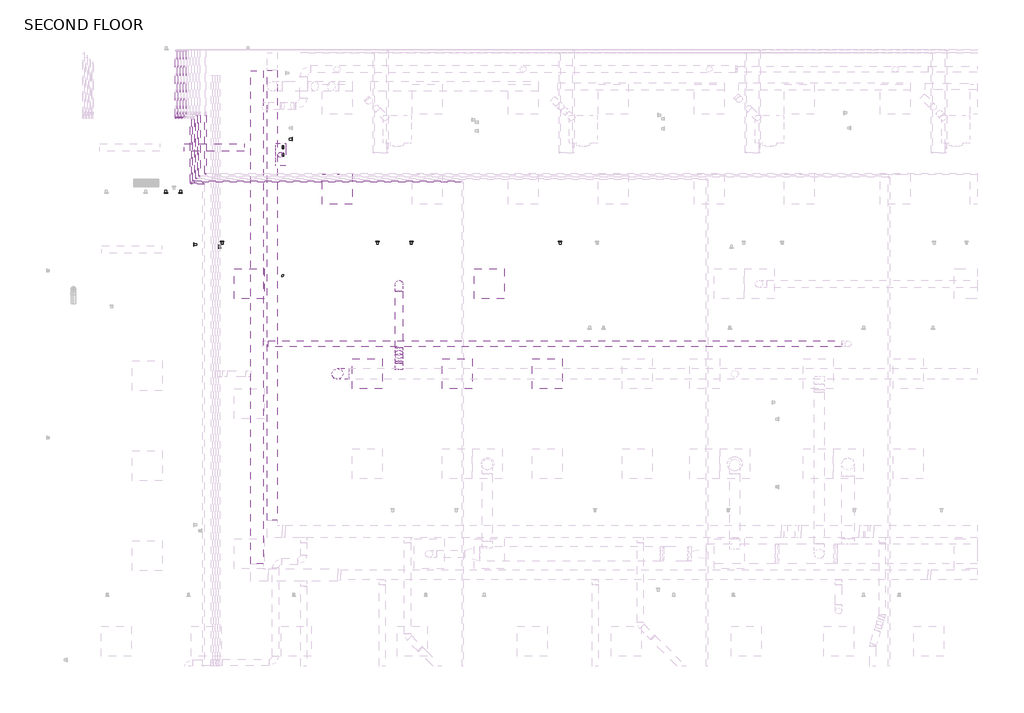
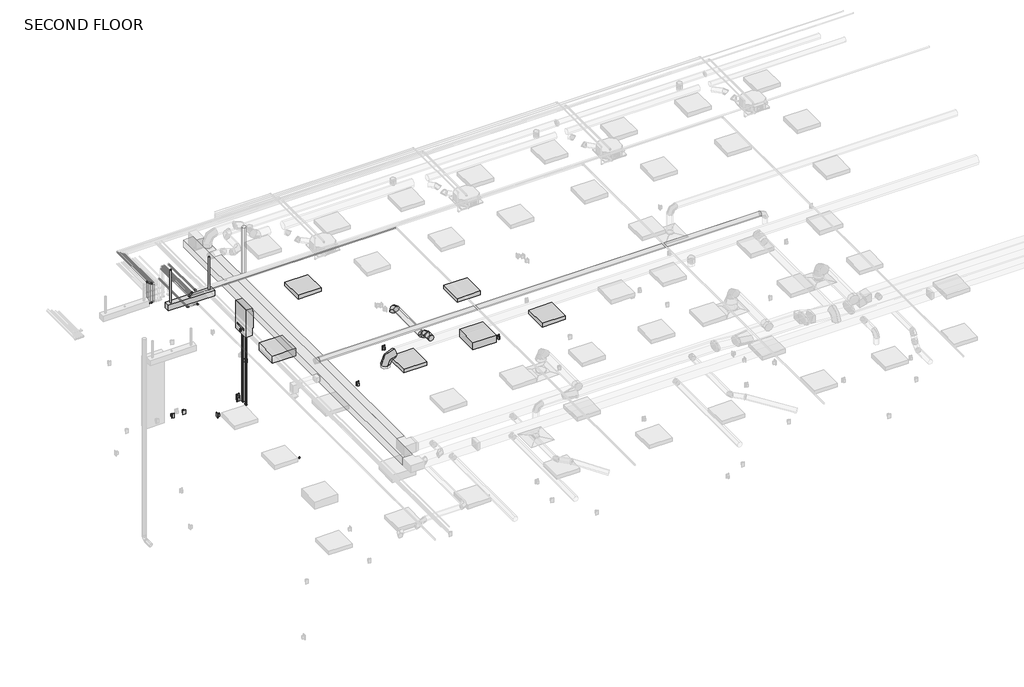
# One storey, part 7 of 12: 21 pipe segments, 15 pipe fittings, 8 duct segments, 7 light fixtures, 5 duct fittings, 5 proxies, 4 switching devices, 1 electric appliance.
"""IFC4 building model written with IfcOpenShell, lengths in millimetres."""

from ifc_helpers import new_model, si_unit, point, frame, frame_2d, origin, place, context, project, spatial, polyline, circle_curve, trimmed, segment, composite_curve, outline, extrude, transform, mapped, element, save
from components import duplex_receptacle_countertop_10251bba, water_heater_tankless_0_6_gallon_c20ab9af, round_elbow_1_d_df495868, round_elbow_1_d_b37ad80b, round_elbow_1_d_9a27e954, round_takeoff_standard_533576aa, telephone_outlet_data_plain_18c24199, suspended_fluorescent_strip_non_hosted_strip_light_1x4_120v_f70b047a, troffer_corner_insert_2x2_3_lamp_emergency_29e3a813, troffer_corner_insert_2x2_3lamp_e67c7f8f, elbow_generic_standard_c06ac706, tee_generic_standard_c9cae54f, tee_generic_standard_d345b28c

model = new_model("IFC4")

# Units and contexts
model_context = context("Model", 3, world=origin())
ifc_project = project(units=[si_unit("LENGTHUNIT", "METRE", prefix="MILLI")], contexts=[model_context])

# Site, building, storey
site = spatial("IfcSite", under=ifc_project)
building = spatial("IfcBuilding", under=site)
storey = spatial("IfcBuildingStorey", under=building, Name="SECOND FLOOR", Elevation=34544.0)

# Proxies
placement = place(None, origin())
duplex_receptacle_countertop_shape = duplex_receptacle_countertop_10251bba(model_context)
element("IfcBuildingElementProxy", 1, Name="Duplex Receptacle : Standard", ObjectType="Duplex Receptacle : Standard", at=placement, inside=storey, context=model_context, shape_type="MappedRepresentation", body=[
    mapped(duplex_receptacle_countertop_shape, transform((-5631.4954607, 5845.9813735, 35001.2), x_axis=(0.0, 1.0, 0.0), y_axis=(0.0, 0.0, 1.0), z_axis=(1.0, 0.0, 0.0))),
])
element("IfcBuildingElementProxy", 2, Name="Duplex Receptacle : Standard", ObjectType="Duplex Receptacle : Standard", at=placement, inside=storey, context=model_context, shape_type="MappedRepresentation", body=[
    mapped(duplex_receptacle_countertop_shape, transform((-3895.4451899, 3763.3695005, 35001.2), x_axis=(-1.0, 0.0, 0.0), y_axis=(0.0, 0.0, 1.0), z_axis=(0.0, 1.0, 0.0))),
])
element("IfcBuildingElementProxy", 3, Name="Duplex Receptacle : Standard", ObjectType="Duplex Receptacle : Standard", at=placement, inside=storey, context=model_context, shape_type="MappedRepresentation", body=[
    mapped(duplex_receptacle_countertop_shape, transform((-183.4985856, 3763.3695005, 35001.2), x_axis=(-1.0, 0.0, 0.0), y_axis=(0.0, 0.0, 1.0), z_axis=(0.0, 1.0, 0.0))),
])
element("IfcBuildingElementProxy", 4, Name="Duplex Receptacle : Standard", ObjectType="Duplex Receptacle : Standard", at=placement, inside=storey, context=model_context, shape_type="MappedRepresentation", body=[
    mapped(duplex_receptacle_countertop_shape, transform((-7897.5005989, 4757.1445005, 35001.2), x_axis=(1.0, 0.0, 0.0), y_axis=(0.0, 0.0, 1.0), z_axis=(0.0, -1.0, 0.0))),
])
water_heater_tankless_0_6_gallon_shape = water_heater_tankless_0_6_gallon_c20ab9af(model_context)
element("IfcBuildingElementProxy", 5, Name="Water Heater - Tankless : 0.6 Gallon", ObjectType="Water Heater - Tankless : 0.6 Gallon", at=placement, inside=storey, context=model_context, shape_type="MappedRepresentation", body=[
    mapped(water_heater_tankless_0_6_gallon_shape, transform((-5755.3204607, 5529.8718518, 36068.0), x_axis=(0.0, -1.0, 0.0), y_axis=(0.0, 0.0, 1.0), z_axis=(-1.0, 0.0, 0.0))),
])

# Duct fittings
round_elbow_1_d_shape = round_elbow_1_d_df495868(model_context)
element("IfcDuctFitting", 6, ObjectType="Round Elbow : 1 D", at=placement, inside=storey, context=model_context, shape_type="MappedRepresentation", body=[
    mapped(round_elbow_1_d_shape, transform((-4708.3642107, 1077.3195005, 37693.6), x_axis=(0.0, 0.0, 1.0), y_axis=(1.0, 0.0, 0.0), z_axis=(0.0, 1.0, 0.0))),
])
round_elbow_1_d_2_shape = round_elbow_1_d_b37ad80b(model_context)
element("IfcDuctFitting", 7, ObjectType="Round Elbow : 1 D", at=placement, inside=storey, context=model_context, shape_type="MappedRepresentation", body=[
    mapped(round_elbow_1_d_2_shape, transform((-3456.6204607, 2906.1195005, 37541.2), x_axis=(0.0, 1.0, 0.0), y_axis=(0.0, 0.0, -1.0), z_axis=(-1.0, 0.0, 0.0))),
])
round_elbow_1_d_3_shape = round_elbow_1_d_9a27e954(model_context)
element("IfcDuctFitting", 8, ObjectType="Round Elbow : 1 D", at=placement, inside=storey, context=model_context, shape_type="MappedRepresentation", body=[
    mapped(round_elbow_1_d_3_shape, transform((-3456.6204607, 1395.5286193, 37693.6), x_axis=(0.0, 1.0, 0.0), y_axis=(0.0, 0.0, -1.0), z_axis=(-1.0, 0.0, 0.0))),
])
element("IfcDuctFitting", 9, ObjectType="Round Elbow : 1 D", at=placement, inside=storey, context=model_context, shape_type="MappedRepresentation", body=[
    mapped(round_elbow_1_d_3_shape, transform((-3456.6204607, 1547.9286193, 37541.2), x_axis=(0.0, 0.7071067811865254, -0.7071067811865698), y_axis=(0.0, 0.7071067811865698, 0.7071067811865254), z_axis=(1.0, 0.0, 0.0))),
])
round_takeoff_standard_shape = round_takeoff_standard_533576aa(model_context)
element("IfcDuctFitting", 10, ObjectType="Round Takeoff : Standard", at=placement, inside=storey, context=model_context, shape_type="MappedRepresentation", body=[
    mapped(round_takeoff_standard_shape, transform((-3456.6204607, 1191.6195005, 37693.6), x_axis=(0.0, 1.0, 0.0), y_axis=(1.0, 0.0, 0.0), z_axis=(0.0, 0.0, -1.0))),
])

# Duct segments
element("IfcDuctSegment", 11, ObjectType="Mitered Elbows / Taps", at=placement, inside=storey, context=model_context, shape_type="SweptSolid", body=[
    extrude(outline(polyline([(-6474.3126806, 7240.8083087), (-6220.3126806, 7240.8083087), (-6220.3126806, -2781.6706668), (-6474.3126806, -2781.6706668), (-6474.3126806, 7240.8083087)])), frame((0.0, 0.0, 37592.0), z_axis=(0.0, 0.0, 1.0), x_axis=(1.0, 0.0, 0.0)), (0.0, 0.0, 1.0), 203.2),
])
element("IfcDuctSegment", 12, ObjectType="Mitered Elbows / Taps", at=placement, inside=storey, context=model_context, shape_type="SweptSolid", body=[
    extrude(outline(polyline([(-5928.2204015, -1894.4804995), (-6131.4204015, -1894.4804995), (-6131.4204015, 7249.5195005), (-5928.2204015, 7249.5195005), (-5928.2204015, -1894.4804995)])), frame((0.0, 0.0, 37414.2), z_axis=(0.0, 0.0, 1.0), x_axis=(1.0, 0.0, 0.0)), (0.0, 0.0, 1.0), 254.0),
])
element("IfcDuctSegment", 13, ObjectType="Taps / Short Radius", at=placement, inside=storey, context=model_context, shape_type="SweptSolid", body=[
    extrude(outline(composite_curve([segment(trimmed(circle_curve(frame_2d((1686.9195005, 37693.6)), 63.5), [point((1623.4195005, 37693.6))], [point((1686.9195005, 37757.1))], False, "CARTESIAN"), True, "CONTINUOUS"), segment(trimmed(circle_curve(frame_2d((1686.9195005, 37693.6)), 63.5), [point((1686.9195005, 37757.1))], [point((1750.4195005, 37693.6))], False, "CARTESIAN"), True, "CONTINUOUS"), segment(trimmed(circle_curve(frame_2d((1686.9195005, 37693.6)), 63.5), [point((1750.4195005, 37693.6))], [point((1686.9195005, 37630.1))], False, "CARTESIAN"), True, "CONTINUOUS"), segment(trimmed(circle_curve(frame_2d((1686.9195005, 37693.6)), 63.5), [point((1686.9195005, 37630.1))], [point((1623.4195005, 37693.6))], False, "CARTESIAN"), True, "CONTINUOUS")], self_intersect=False)), frame((-6118.7126806, 0.0, 0.0), z_axis=(1.0, 0.0, 0.0), x_axis=(0.0, 1.0, 0.0)), (0.0, 0.0, 1.0), 11660.8359699),
])
element("IfcDuctSegment", 14, ObjectType="Taps / Short Radius", at=placement, inside=storey, context=model_context, shape_type="SweptSolid", body=[
    extrude(outline(composite_curve([segment(trimmed(circle_curve(frame_2d((-4708.3642107, 1077.3195005)), 114.3), [point((-4708.3642107, 963.0195005))], [point((-4822.6642107, 1077.3195005))], False, "CARTESIAN"), True, "CONTINUOUS"), segment(trimmed(circle_curve(frame_2d((-4708.3642107, 1077.3195005)), 114.3), [point((-4822.6642107, 1077.3195005))], [point((-4708.3642107, 1191.6195005))], False, "CARTESIAN"), True, "CONTINUOUS"), segment(trimmed(circle_curve(frame_2d((-4708.3642107, 1077.3195005)), 114.3), [point((-4708.3642107, 1191.6195005))], [point((-4594.0642107, 1077.3195005))], False, "CARTESIAN"), True, "CONTINUOUS"), segment(trimmed(circle_curve(frame_2d((-4708.3642107, 1077.3195005)), 114.3), [point((-4594.0642107, 1077.3195005))], [point((-4708.3642107, 963.0195005))], False, "CARTESIAN"), True, "CONTINUOUS")], self_intersect=False)), frame((0.0, 0.0, 37388.8), z_axis=(0.0, 0.0, 1.0), x_axis=(1.0, 0.0, 0.0)), (0.0, 0.0, 1.0), 76.2),
])
element("IfcDuctSegment", 15, ObjectType="Taps / Short Radius", at=placement, inside=storey, context=model_context, shape_type="SweptSolid", body=[
    extrude(outline(composite_curve([segment(trimmed(circle_curve(frame_2d((37541.2, -3456.6204607)), 76.2), [point((37541.2, -3380.4204607))], [point((37617.4, -3456.6204607))], False, "CARTESIAN"), True, "CONTINUOUS"), segment(trimmed(circle_curve(frame_2d((37541.2, -3456.6204607)), 76.2), [point((37617.4, -3456.6204607))], [point((37541.2, -3532.8204607))], False, "CARTESIAN"), True, "CONTINUOUS"), segment(trimmed(circle_curve(frame_2d((37541.2, -3456.6204607)), 76.2), [point((37541.2, -3532.8204607))], [point((37465.0, -3456.6204607))], False, "CARTESIAN"), True, "CONTINUOUS"), segment(trimmed(circle_curve(frame_2d((37541.2, -3456.6204607)), 76.2), [point((37465.0, -3456.6204607))], [point((37541.2, -3380.4204607))], False, "CARTESIAN"), True, "CONTINUOUS")], self_intersect=False)), frame((0.0, 1611.0547662, 0.0), z_axis=(0.0, 1.0, 0.0), x_axis=(0.0, 0.0, 1.0)), (0.0, 0.0, 1.0), 1142.6647343),
])
element("IfcDuctSegment", 16, ObjectType="Taps / Short Radius", at=placement, inside=storey, context=model_context, shape_type="SweptSolid", body=[
    extrude(outline(composite_curve([segment(trimmed(circle_curve(frame_2d((37693.6, -3456.6204607)), 76.2), [point((37693.6, -3380.4204607))], [point((37769.8, -3456.6204607))], False, "CARTESIAN"), True, "CONTINUOUS"), segment(trimmed(circle_curve(frame_2d((37693.6, -3456.6204607)), 76.2), [point((37769.8, -3456.6204607))], [point((37693.6, -3532.8204607))], False, "CARTESIAN"), True, "CONTINUOUS"), segment(trimmed(circle_curve(frame_2d((37693.6, -3456.6204607)), 76.2), [point((37693.6, -3532.8204607))], [point((37617.4, -3456.6204607))], False, "CARTESIAN"), True, "CONTINUOUS"), segment(trimmed(circle_curve(frame_2d((37693.6, -3456.6204607)), 76.2), [point((37617.4, -3456.6204607))], [point((37693.6, -3380.4204607))], False, "CARTESIAN"), True, "CONTINUOUS")], self_intersect=False)), frame((0.0, 1293.2195005, 0.0), z_axis=(0.0, 1.0, 0.0), x_axis=(0.0, 0.0, 1.0)), (0.0, 0.0, 1.0), 39.1829719),
])
element("IfcDuctSegment", 17, ObjectType="Taps / Short Radius", at=placement, inside=storey, context=model_context, shape_type="SweptSolid", body=[
    extrude(outline(composite_curve([segment(trimmed(circle_curve(frame_2d((0.0, -76.2000001)), 76.2), [point((76.2, -76.2000001))], [point((0.0, -152.4000001))], False, "CARTESIAN"), True, "CONTINUOUS"), segment(trimmed(circle_curve(frame_2d((0.0, -76.2000001)), 76.2), [point((0.0, -152.4000001))], [point((-76.2, -76.2000001))], False, "CARTESIAN"), True, "CONTINUOUS"), segment(trimmed(circle_curve(frame_2d((0.0, -76.2000001)), 76.2), [point((-76.2, -76.2000001))], [point((0.0, 0.0))], False, "CARTESIAN"), True, "CONTINUOUS"), segment(trimmed(circle_curve(frame_2d((0.0, -76.2000001)), 76.2), [point((0.0, 0.0))], [point((76.2, -76.2000001))], False, "CARTESIAN"), True, "CONTINUOUS")], self_intersect=False)), frame((-3456.6204607, 1557.1732295, 37639.7184633), z_axis=(0.0, -0.7071067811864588, 0.7071067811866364), x_axis=(1.0, 0.0, 0.0)), (0.0, 0.0, 1.0), 89.2738531),
])
element("IfcDuctSegment", 18, ObjectType="Taps / Short Radius", at=placement, inside=storey, context=model_context, shape_type="SweptSolid", body=[
    extrude(outline(composite_curve([segment(trimmed(circle_curve(frame_2d((-5869.6204607, 5529.8718518)), 50.8), [point((-5818.8204607, 5529.8718518))], [point((-5869.6204607, 5479.0718518))], False, "CARTESIAN"), True, "CONTINUOUS"), segment(trimmed(circle_curve(frame_2d((-5869.6204607, 5529.8718518)), 50.8), [point((-5869.6204607, 5479.0718518))], [point((-5920.4204607, 5529.8718518))], False, "CARTESIAN"), True, "CONTINUOUS"), segment(trimmed(circle_curve(frame_2d((-5869.6204607, 5529.8718518)), 50.8), [point((-5920.4204607, 5529.8718518))], [point((-5869.6204607, 5580.6718518))], False, "CARTESIAN"), True, "CONTINUOUS"), segment(trimmed(circle_curve(frame_2d((-5869.6204607, 5529.8718518)), 50.8), [point((-5869.6204607, 5580.6718518))], [point((-5818.8204607, 5529.8718518))], False, "CARTESIAN"), True, "CONTINUOUS")], self_intersect=False)), frame((0.0, 0.0, 36830.0), z_axis=(0.0, 0.0, 1.0), x_axis=(1.0, 0.0, 0.0)), (0.0, 0.0, 1.0), 2159.0),
])

# Electric appliance
telephone_outlet_data_plain_shape = telephone_outlet_data_plain_18c24199(model_context)
element("IfcElectricAppliance", 19, ObjectType="Telephone Outlet - Data : Plain", at=placement, inside=storey, context=model_context, shape_type="MappedRepresentation", body=[
    mapped(telephone_outlet_data_plain_shape, transform((-7315.5685477, 4757.1445005, 34143.95), x_axis=(1.0, 0.0, 0.0), y_axis=(0.0, 0.0, 1.0), z_axis=(0.0, -1.0, 0.0))),
])

# Light fixtures
suspended_fluorescent_strip_non_hosted_strip_light_1x4_120v_shape = suspended_fluorescent_strip_non_hosted_strip_light_1x4_120v_f70b047a(model_context)
element("IfcLightFixture", 20, ObjectType="Suspended Fluorescent Strip - Non-Hosted : Strip Light 1x4 - 120V Normal", at=placement, inside=storey, context=model_context, shape_type="MappedRepresentation", body=[
    mapped(suspended_fluorescent_strip_non_hosted_strip_light_1x4_120v_shape, transform((-7211.4888758, 5679.9210752, 37287.2), x_axis=(1.0, 0.0, 0.0), y_axis=(0.0, 1.0, 0.0), z_axis=(0.0, 0.0, 1.0))),
])
troffer_corner_insert_2x2_3_lamp_emergency_shape = troffer_corner_insert_2x2_3_lamp_emergency_29e3a813(model_context)
element("IfcLightFixture", 21, ObjectType="Troffer Corner Insert : 2x2 3 Lamp Emergency", at=placement, inside=storey, context=model_context, shape_type="MappedRepresentation", body=[
    mapped(troffer_corner_insert_2x2_3_lamp_emergency_shape, transform((-6504.6204607, 2906.1195005, 34848.8), x_axis=(1.0, 0.0, 0.0), y_axis=(0.0, 1.0, 0.0), z_axis=(0.0, 0.0, 1.0))),
])
element("IfcLightFixture", 22, ObjectType="Troffer Corner Insert : 2x2 3 Lamp Emergency", at=placement, inside=storey, context=model_context, shape_type="MappedRepresentation", body=[
    mapped(troffer_corner_insert_2x2_3_lamp_emergency_shape, transform((-2269.9642107, 1077.3195005, 34848.8), x_axis=(1.0, 0.0, 0.0), y_axis=(0.0, 1.0, 0.0), z_axis=(0.0, 0.0, 1.0))),
])
troffer_corner_insert_2x2_3lamp_shape = troffer_corner_insert_2x2_3lamp_e67c7f8f(model_context)
element("IfcLightFixture", 23, ObjectType="Troffer Corner Insert : 2x2 3Lamp", at=placement, inside=storey, context=model_context, shape_type="MappedRepresentation", body=[
    mapped(troffer_corner_insert_2x2_3lamp_shape, transform((-4717.0954607, 4830.1695005, 34848.8), x_axis=(1.0, 0.0, 0.0), y_axis=(0.0, 1.0, 0.0), z_axis=(0.0, 0.0, 1.0))),
])
element("IfcLightFixture", 24, ObjectType="Troffer Corner Insert : 2x2 3Lamp", at=placement, inside=storey, context=model_context, shape_type="MappedRepresentation", body=[
    mapped(troffer_corner_insert_2x2_3lamp_shape, transform((-1627.8204607, 2906.1195005, 34848.8), x_axis=(1.0, 0.0, 0.0), y_axis=(0.0, 1.0, 0.0), z_axis=(0.0, 0.0, 1.0))),
])
element("IfcLightFixture", 25, ObjectType="Troffer Corner Insert : 2x2 3Lamp", at=placement, inside=storey, context=model_context, shape_type="MappedRepresentation", body=[
    mapped(troffer_corner_insert_2x2_3lamp_shape, transform((-4098.7642107, 1077.3195005, 34848.8), x_axis=(1.0, 0.0, 0.0), y_axis=(0.0, 1.0, 0.0), z_axis=(0.0, 0.0, 1.0))),
])
element("IfcLightFixture", 26, ObjectType="Troffer Corner Insert : 2x2 3Lamp", at=placement, inside=storey, context=model_context, shape_type="MappedRepresentation", body=[
    mapped(troffer_corner_insert_2x2_3lamp_shape, transform((-441.1642107, 1077.3195005, 34848.8), x_axis=(1.0, 0.0, 0.0), y_axis=(0.0, 1.0, 0.0), z_axis=(0.0, 0.0, 1.0))),
])

# Pipe fittings
elbow_generic_standard_shape = elbow_generic_standard_c06ac706(model_context)
element("IfcPipeFitting", 27, ObjectType="Elbow - Generic : Standard", at=placement, inside=storey, context=model_context, shape_type="MappedRepresentation", body=[
    mapped(elbow_generic_standard_shape, transform((-7991.0790543, 6278.6701311, 37115.9125), x_axis=(0.0, -1.0, 0.0), y_axis=(0.0, 0.0, 1.0), z_axis=(-1.0, 0.0, 0.0))),
])
element("IfcPipeFitting", 28, ObjectType="Elbow - Generic : Standard", at=placement, inside=storey, context=model_context, shape_type="MappedRepresentation", body=[
    mapped(elbow_generic_standard_shape, transform((-7991.0790543, 6278.6701311, 37744.4), x_axis=(0.0, 0.0, 1.0), y_axis=(0.0, 1.0, 0.0), z_axis=(-1.0, 0.0, 0.0))),
])
element("IfcPipeFitting", 29, ObjectType="Elbow - Generic : Standard", at=placement, inside=storey, context=model_context, shape_type="MappedRepresentation", body=[
    mapped(elbow_generic_standard_shape, transform((-7931.0790543, 6278.6701311, 37115.9125), x_axis=(0.0, -1.0, 0.0), y_axis=(0.0, 0.0, 1.0), z_axis=(-1.0, 0.0, 0.0))),
])
element("IfcPipeFitting", 30, ObjectType="Elbow - Generic : Standard", at=placement, inside=storey, context=model_context, shape_type="MappedRepresentation", body=[
    mapped(elbow_generic_standard_shape, transform((-7931.0790543, 6278.6701311, 37706.3), x_axis=(0.0, 0.0, 1.0), y_axis=(0.0, 1.0, 0.0), z_axis=(-1.0, 0.0, 0.0))),
])
element("IfcPipeFitting", 31, ObjectType="Elbow - Generic : Standard", at=placement, inside=storey, context=model_context, shape_type="MappedRepresentation", body=[
    mapped(elbow_generic_standard_shape, transform((-7871.0790543, 6278.6701311, 37115.9125), x_axis=(0.0, -1.0, 0.0), y_axis=(0.0, 0.0, 1.0), z_axis=(-1.0, 0.0, 0.0))),
])
element("IfcPipeFitting", 32, ObjectType="Elbow - Generic : Standard", at=placement, inside=storey, context=model_context, shape_type="MappedRepresentation", body=[
    mapped(elbow_generic_standard_shape, transform((-7871.0790543, 6278.6701311, 37668.2), x_axis=(0.0, 0.0, 1.0), y_axis=(0.0, 1.0, 0.0), z_axis=(-1.0, 0.0, 0.0))),
])
element("IfcPipeFitting", 33, ObjectType="Elbow - Generic : Standard", at=placement, inside=storey, context=model_context, shape_type="MappedRepresentation", body=[
    mapped(elbow_generic_standard_shape, transform((-7691.0790543, 4946.3891003, 37744.4), x_axis=(0.0, -1.0, 0.0), y_axis=(1.0, 0.0, 0.0), z_axis=(0.0, 0.0, 1.0))),
])
element("IfcPipeFitting", 34, ObjectType="Elbow - Generic : Standard", at=placement, inside=storey, context=model_context, shape_type="MappedRepresentation", body=[
    mapped(elbow_generic_standard_shape, transform((-7430.4504607, 4946.3891003, 37744.4), x_axis=(0.0, 1.0, 0.0), y_axis=(-1.0, 0.0, 0.0), z_axis=(0.0, 0.0, 1.0))),
])
element("IfcPipeFitting", 35, ObjectType="Elbow - Generic : Standard", at=placement, inside=storey, context=model_context, shape_type="MappedRepresentation", body=[
    mapped(elbow_generic_standard_shape, transform((-7631.0790543, 4983.2701311, 37998.4), x_axis=(0.0, -1.0, 0.0), y_axis=(1.0, 0.0, 0.0), z_axis=(0.0, 0.0, 1.0))),
])
element("IfcPipeFitting", 36, ObjectType="Elbow - Generic : Standard", at=placement, inside=storey, context=model_context, shape_type="MappedRepresentation", body=[
    mapped(elbow_generic_standard_shape, transform((-7571.0790543, 5034.0701311, 37998.4), x_axis=(0.0, -1.0, 0.0), y_axis=(1.0, 0.0, 0.0), z_axis=(0.0, 0.0, 1.0))),
])
element("IfcPipeFitting", 37, ObjectType="Elbow - Generic : Standard", at=placement, inside=storey, context=model_context, shape_type="MappedRepresentation", body=[
    mapped(elbow_generic_standard_shape, transform((-7511.0790543, 5084.8701311, 37998.4), x_axis=(0.0, -1.0, 0.0), y_axis=(1.0, 0.0, 0.0), z_axis=(0.0, 0.0, 1.0))),
])
element("IfcPipeFitting", 38, ObjectType="Elbow - Generic : Standard", at=placement, inside=storey, context=model_context, shape_type="MappedRepresentation", body=[
    mapped(elbow_generic_standard_shape, transform((-7391.0790543, 5135.6701311, 37998.4), x_axis=(0.0, -1.0, 0.0), y_axis=(1.0, 0.0, 0.0), z_axis=(0.0, 0.0, 1.0))),
])
element("IfcPipeFitting", 39, ObjectType="Elbow - Generic : Standard", at=placement, inside=storey, context=model_context, shape_type="MappedRepresentation", body=[
    mapped(elbow_generic_standard_shape, transform((-5818.8204607, 3066.0718518, 34023.3), x_axis=(1.0, 0.0, 0.0), y_axis=(0.0, 1.0, 0.0), z_axis=(0.0, 0.0, 1.0))),
])
tee_generic_standard_shape = tee_generic_standard_c9cae54f(model_context)
element("IfcPipeFitting", 40, ObjectType="Tee - Generic : Standard", at=placement, inside=storey, context=model_context, shape_type="MappedRepresentation", body=[
    mapped(tee_generic_standard_shape, transform((-5818.8204607, 5682.2718518, 34023.2996974), x_axis=(0.0, -0.9999999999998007, -6.315318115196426e-07), y_axis=(0.0, 6.315318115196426e-07, -0.9999999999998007), z_axis=(1.0, 0.0, 0.0))),
])
tee_generic_standard_2_shape = tee_generic_standard_d345b28c(model_context)
element("IfcPipeFitting", 41, ObjectType="Tee - Generic : Standard", at=placement, inside=storey, context=model_context, shape_type="MappedRepresentation", body=[
    mapped(tee_generic_standard_2_shape, transform((-5818.8204607, 5529.8718518, 34023.3), x_axis=(0.0, 1.0, 0.0), y_axis=(0.0, 0.0, -1.0), z_axis=(-1.0, 0.0, 0.0))),
])

# Pipe segments
element("IfcPipeSegment", 42, ObjectType="Copper Tubing", at=placement, inside=storey, context=model_context, shape_type="SweptSolid", body=[
    extrude(outline(composite_curve([segment(trimmed(circle_curve(frame_2d((37115.9125, -7991.0790543)), 14.2875), [point((37115.9125, -8005.3665543))], [point((37101.625, -7991.0790543))], False, "CARTESIAN"), True, "CONTINUOUS"), segment(trimmed(circle_curve(frame_2d((37115.9125, -7991.0790543)), 14.2875), [point((37101.625, -7991.0790543))], [point((37115.9125, -7976.7915543))], False, "CARTESIAN"), True, "CONTINUOUS"), segment(trimmed(circle_curve(frame_2d((37115.9125, -7991.0790543)), 14.2875), [point((37115.9125, -7976.7915543))], [point((37130.2, -7991.0790543))], False, "CARTESIAN"), True, "CONTINUOUS"), segment(trimmed(circle_curve(frame_2d((37115.9125, -7991.0790543)), 14.2875), [point((37130.2, -7991.0790543))], [point((37115.9125, -8005.3665543))], False, "CARTESIAN"), True, "CONTINUOUS")], self_intersect=False)), frame((0.0, 6299.3076311, 0.0), z_axis=(0.0, 1.0, 0.0), x_axis=(0.0, 0.0, 1.0)), (0.0, 0.0, 1.0), 101.5999898),
])
element("IfcPipeSegment", 43, ObjectType="Copper Tubing", at=placement, inside=storey, context=model_context, shape_type="SweptSolid", body=[
    extrude(outline(composite_curve([segment(trimmed(circle_curve(frame_2d((-7991.0790543, 6278.6701311)), 14.2875), [point((-8005.3665543, 6278.6701311))], [point((-7991.0790543, 6292.9576311))], False, "CARTESIAN"), True, "CONTINUOUS"), segment(trimmed(circle_curve(frame_2d((-7991.0790543, 6278.6701311)), 14.2875), [point((-7991.0790543, 6292.9576311))], [point((-7976.7915543, 6278.6701311))], False, "CARTESIAN"), True, "CONTINUOUS"), segment(trimmed(circle_curve(frame_2d((-7991.0790543, 6278.6701311)), 14.2875), [point((-7976.7915543, 6278.6701311))], [point((-7991.0790543, 6264.3826311))], False, "CARTESIAN"), True, "CONTINUOUS"), segment(trimmed(circle_curve(frame_2d((-7991.0790543, 6278.6701311)), 14.2875), [point((-7991.0790543, 6264.3826311))], [point((-8005.3665543, 6278.6701311))], False, "CARTESIAN"), True, "CONTINUOUS")], self_intersect=False)), frame((0.0, 0.0, 37136.55), z_axis=(0.0, 0.0, 1.0), x_axis=(1.0, 0.0, 0.0)), (0.0, 0.0, 1.0), 587.2125),
])
element("IfcPipeSegment", 44, ObjectType="Copper Tubing", at=placement, inside=storey, context=model_context, shape_type="SweptSolid", body=[
    extrude(outline(composite_curve([segment(trimmed(circle_curve(frame_2d((37744.4, -7991.0790543)), 14.2875), [point((37744.4, -7976.7915543))], [point((37758.6875, -7991.0790543))], False, "CARTESIAN"), True, "CONTINUOUS"), segment(trimmed(circle_curve(frame_2d((37744.4, -7991.0790543)), 14.2875), [point((37758.6875, -7991.0790543))], [point((37744.4, -8005.3665543))], False, "CARTESIAN"), True, "CONTINUOUS"), segment(trimmed(circle_curve(frame_2d((37744.4, -7991.0790543)), 14.2875), [point((37744.4, -8005.3665543))], [point((37730.1125, -7991.0790543))], False, "CARTESIAN"), True, "CONTINUOUS"), segment(trimmed(circle_curve(frame_2d((37744.4, -7991.0790543)), 14.2875), [point((37730.1125, -7991.0790543))], [point((37744.4, -7976.7915543))], False, "CARTESIAN"), True, "CONTINUOUS")], self_intersect=False)), frame((0.0, 6299.3076311, 0.0), z_axis=(0.0, 1.0, 0.0), x_axis=(0.0, 0.0, 1.0)), (0.0, 0.0, 1.0), 1343.9118694),
])
element("IfcPipeSegment", 45, ObjectType="Copper Tubing", at=placement, inside=storey, context=model_context, shape_type="SweptSolid", body=[
    extrude(outline(composite_curve([segment(trimmed(circle_curve(frame_2d((37115.9125, -7931.0790543)), 14.2875), [point((37115.9125, -7945.3665543))], [point((37101.625, -7931.0790543))], False, "CARTESIAN"), True, "CONTINUOUS"), segment(trimmed(circle_curve(frame_2d((37115.9125, -7931.0790543)), 14.2875), [point((37101.625, -7931.0790543))], [point((37115.9125, -7916.7915543))], False, "CARTESIAN"), True, "CONTINUOUS"), segment(trimmed(circle_curve(frame_2d((37115.9125, -7931.0790543)), 14.2875), [point((37115.9125, -7916.7915543))], [point((37130.2, -7931.0790543))], False, "CARTESIAN"), True, "CONTINUOUS"), segment(trimmed(circle_curve(frame_2d((37115.9125, -7931.0790543)), 14.2875), [point((37130.2, -7931.0790543))], [point((37115.9125, -7945.3665543))], False, "CARTESIAN"), True, "CONTINUOUS")], self_intersect=False)), frame((0.0, 6299.3076311, 0.0), z_axis=(0.0, 1.0, 0.0), x_axis=(0.0, 0.0, 1.0)), (0.0, 0.0, 1.0), 101.5999898),
])
element("IfcPipeSegment", 46, ObjectType="Copper Tubing", at=placement, inside=storey, context=model_context, shape_type="SweptSolid", body=[
    extrude(outline(composite_curve([segment(trimmed(circle_curve(frame_2d((-7931.0790543, 6278.6701311)), 14.2875), [point((-7945.3665543, 6278.6701311))], [point((-7931.0790543, 6292.9576311))], False, "CARTESIAN"), True, "CONTINUOUS"), segment(trimmed(circle_curve(frame_2d((-7931.0790543, 6278.6701311)), 14.2875), [point((-7931.0790543, 6292.9576311))], [point((-7916.7915543, 6278.6701311))], False, "CARTESIAN"), True, "CONTINUOUS"), segment(trimmed(circle_curve(frame_2d((-7931.0790543, 6278.6701311)), 14.2875), [point((-7916.7915543, 6278.6701311))], [point((-7931.0790543, 6264.3826311))], False, "CARTESIAN"), True, "CONTINUOUS"), segment(trimmed(circle_curve(frame_2d((-7931.0790543, 6278.6701311)), 14.2875), [point((-7931.0790543, 6264.3826311))], [point((-7945.3665543, 6278.6701311))], False, "CARTESIAN"), True, "CONTINUOUS")], self_intersect=False)), frame((0.0, 0.0, 37136.55), z_axis=(0.0, 0.0, 1.0), x_axis=(1.0, 0.0, 0.0)), (0.0, 0.0, 1.0), 549.1125),
])
element("IfcPipeSegment", 47, ObjectType="Copper Tubing", at=placement, inside=storey, context=model_context, shape_type="SweptSolid", body=[
    extrude(outline(composite_curve([segment(trimmed(circle_curve(frame_2d((37706.3, -7931.0790543)), 14.2875), [point((37706.3, -7916.7915543))], [point((37720.5875, -7931.0790543))], False, "CARTESIAN"), True, "CONTINUOUS"), segment(trimmed(circle_curve(frame_2d((37706.3, -7931.0790543)), 14.2875), [point((37720.5875, -7931.0790543))], [point((37706.3, -7945.3665543))], False, "CARTESIAN"), True, "CONTINUOUS"), segment(trimmed(circle_curve(frame_2d((37706.3, -7931.0790543)), 14.2875), [point((37706.3, -7945.3665543))], [point((37692.0125, -7931.0790543))], False, "CARTESIAN"), True, "CONTINUOUS"), segment(trimmed(circle_curve(frame_2d((37706.3, -7931.0790543)), 14.2875), [point((37692.0125, -7931.0790543))], [point((37706.3, -7916.7915543))], False, "CARTESIAN"), True, "CONTINUOUS")], self_intersect=False)), frame((0.0, 6299.3076311, 0.0), z_axis=(0.0, 1.0, 0.0), x_axis=(0.0, 0.0, 1.0)), (0.0, 0.0, 1.0), 1343.9118694),
])
element("IfcPipeSegment", 48, ObjectType="Copper Tubing", at=placement, inside=storey, context=model_context, shape_type="SweptSolid", body=[
    extrude(outline(composite_curve([segment(trimmed(circle_curve(frame_2d((37115.9125, -7871.0790543)), 14.2875), [point((37115.9125, -7885.3665543))], [point((37101.625, -7871.0790543))], False, "CARTESIAN"), True, "CONTINUOUS"), segment(trimmed(circle_curve(frame_2d((37115.9125, -7871.0790543)), 14.2875), [point((37101.625, -7871.0790543))], [point((37115.9125, -7856.7915543))], False, "CARTESIAN"), True, "CONTINUOUS"), segment(trimmed(circle_curve(frame_2d((37115.9125, -7871.0790543)), 14.2875), [point((37115.9125, -7856.7915543))], [point((37130.2, -7871.0790543))], False, "CARTESIAN"), True, "CONTINUOUS"), segment(trimmed(circle_curve(frame_2d((37115.9125, -7871.0790543)), 14.2875), [point((37130.2, -7871.0790543))], [point((37115.9125, -7885.3665543))], False, "CARTESIAN"), True, "CONTINUOUS")], self_intersect=False)), frame((0.0, 6299.3076311, 0.0), z_axis=(0.0, 1.0, 0.0), x_axis=(0.0, 0.0, 1.0)), (0.0, 0.0, 1.0), 101.5999898),
])
element("IfcPipeSegment", 49, ObjectType="Copper Tubing", at=placement, inside=storey, context=model_context, shape_type="SweptSolid", body=[
    extrude(outline(composite_curve([segment(trimmed(circle_curve(frame_2d((-7871.0790543, 6278.6701311)), 14.2875), [point((-7885.3665543, 6278.6701311))], [point((-7871.0790543, 6292.9576311))], False, "CARTESIAN"), True, "CONTINUOUS"), segment(trimmed(circle_curve(frame_2d((-7871.0790543, 6278.6701311)), 14.2875), [point((-7871.0790543, 6292.9576311))], [point((-7856.7915543, 6278.6701311))], False, "CARTESIAN"), True, "CONTINUOUS"), segment(trimmed(circle_curve(frame_2d((-7871.0790543, 6278.6701311)), 14.2875), [point((-7856.7915543, 6278.6701311))], [point((-7871.0790543, 6264.3826311))], False, "CARTESIAN"), True, "CONTINUOUS"), segment(trimmed(circle_curve(frame_2d((-7871.0790543, 6278.6701311)), 14.2875), [point((-7871.0790543, 6264.3826311))], [point((-7885.3665543, 6278.6701311))], False, "CARTESIAN"), True, "CONTINUOUS")], self_intersect=False)), frame((0.0, 0.0, 37136.55), z_axis=(0.0, 0.0, 1.0), x_axis=(1.0, 0.0, 0.0)), (0.0, 0.0, 1.0), 511.0125),
])
element("IfcPipeSegment", 50, ObjectType="Copper Tubing", at=placement, inside=storey, context=model_context, shape_type="SweptSolid", body=[
    extrude(outline(composite_curve([segment(trimmed(circle_curve(frame_2d((37668.2, -7871.0790543)), 14.2875), [point((37668.2, -7856.7915543))], [point((37682.4875, -7871.0790543))], False, "CARTESIAN"), True, "CONTINUOUS"), segment(trimmed(circle_curve(frame_2d((37668.2, -7871.0790543)), 14.2875), [point((37682.4875, -7871.0790543))], [point((37668.2, -7885.3665543))], False, "CARTESIAN"), True, "CONTINUOUS"), segment(trimmed(circle_curve(frame_2d((37668.2, -7871.0790543)), 14.2875), [point((37668.2, -7885.3665543))], [point((37653.9125, -7871.0790543))], False, "CARTESIAN"), True, "CONTINUOUS"), segment(trimmed(circle_curve(frame_2d((37668.2, -7871.0790543)), 14.2875), [point((37653.9125, -7871.0790543))], [point((37668.2, -7856.7915543))], False, "CARTESIAN"), True, "CONTINUOUS")], self_intersect=False)), frame((0.0, 6299.3076311, 0.0), z_axis=(0.0, 1.0, 0.0), x_axis=(0.0, 0.0, 1.0)), (0.0, 0.0, 1.0), 1343.9118694),
])
element("IfcPipeSegment", 51, ObjectType="Copper Tubing", at=placement, inside=storey, context=model_context, shape_type="SweptSolid", body=[
    extrude(outline(composite_curve([segment(trimmed(circle_curve(frame_2d((37115.9125, -7811.0790543)), 14.2875), [point((37115.9125, -7825.3665543))], [point((37101.625, -7811.0790543))], False, "CARTESIAN"), True, "CONTINUOUS"), segment(trimmed(circle_curve(frame_2d((37115.9125, -7811.0790543)), 14.2875), [point((37101.625, -7811.0790543))], [point((37115.9125, -7796.7915543))], False, "CARTESIAN"), True, "CONTINUOUS"), segment(trimmed(circle_curve(frame_2d((37115.9125, -7811.0790543)), 14.2875), [point((37115.9125, -7796.7915543))], [point((37130.2, -7811.0790543))], False, "CARTESIAN"), True, "CONTINUOUS"), segment(trimmed(circle_curve(frame_2d((37115.9125, -7811.0790543)), 14.2875), [point((37130.2, -7811.0790543))], [point((37115.9125, -7825.3665543))], False, "CARTESIAN"), True, "CONTINUOUS")], self_intersect=False)), frame((0.0, 6299.3076311, 0.0), z_axis=(0.0, 1.0, 0.0), x_axis=(0.0, 0.0, 1.0)), (0.0, 0.0, 1.0), 101.5999898),
])
element("IfcPipeSegment", 52, ObjectType="Copper Tubing", at=placement, inside=storey, context=model_context, shape_type="SweptSolid", body=[
    extrude(outline(composite_curve([segment(trimmed(circle_curve(frame_2d((-7811.0790543, 6278.6701311)), 14.2875), [point((-7825.3665543, 6278.6701311))], [point((-7811.0790543, 6292.9576311))], False, "CARTESIAN"), True, "CONTINUOUS"), segment(trimmed(circle_curve(frame_2d((-7811.0790543, 6278.6701311)), 14.2875), [point((-7811.0790543, 6292.9576311))], [point((-7796.7915543, 6278.6701311))], False, "CARTESIAN"), True, "CONTINUOUS"), segment(trimmed(circle_curve(frame_2d((-7811.0790543, 6278.6701311)), 14.2875), [point((-7796.7915543, 6278.6701311))], [point((-7811.0790543, 6264.3826311))], False, "CARTESIAN"), True, "CONTINUOUS"), segment(trimmed(circle_curve(frame_2d((-7811.0790543, 6278.6701311)), 14.2875), [point((-7811.0790543, 6264.3826311))], [point((-7825.3665543, 6278.6701311))], False, "CARTESIAN"), True, "CONTINUOUS")], self_intersect=False)), frame((0.0, 0.0, 37136.55), z_axis=(0.0, 0.0, 1.0), x_axis=(1.0, 0.0, 0.0)), (0.0, 0.0, 1.0), 472.9125),
])
element("IfcPipeSegment", 53, ObjectType="Copper Tubing", at=placement, inside=storey, context=model_context, shape_type="SweptSolid", body=[
    extrude(outline(composite_curve([segment(trimmed(circle_curve(frame_2d((37630.1, -7811.0790543)), 14.2875), [point((37630.1, -7796.7915543))], [point((37644.3875, -7811.0790543))], False, "CARTESIAN"), True, "CONTINUOUS"), segment(trimmed(circle_curve(frame_2d((37630.1, -7811.0790543)), 14.2875), [point((37644.3875, -7811.0790543))], [point((37630.1, -7825.3665543))], False, "CARTESIAN"), True, "CONTINUOUS"), segment(trimmed(circle_curve(frame_2d((37630.1, -7811.0790543)), 14.2875), [point((37630.1, -7825.3665543))], [point((37615.8125, -7811.0790543))], False, "CARTESIAN"), True, "CONTINUOUS"), segment(trimmed(circle_curve(frame_2d((37630.1, -7811.0790543)), 14.2875), [point((37615.8125, -7811.0790543))], [point((37630.1, -7796.7915543))], False, "CARTESIAN"), True, "CONTINUOUS")], self_intersect=False)), frame((0.0, 6299.3076311, 0.0), z_axis=(0.0, 1.0, 0.0), x_axis=(0.0, 0.0, 1.0)), (0.0, 0.0, 1.0), 1343.9118694),
])
element("IfcPipeSegment", 54, ObjectType="Copper Tubing", at=placement, inside=storey, context=model_context, shape_type="SweptSolid", body=[
    extrude(outline(composite_curve([segment(trimmed(circle_curve(frame_2d((37744.4, -7691.0790543)), 14.2875), [point((37744.4, -7705.3665543))], [point((37730.1125, -7691.0790543))], False, "CARTESIAN"), True, "CONTINUOUS"), segment(trimmed(circle_curve(frame_2d((37744.4, -7691.0790543)), 14.2875), [point((37730.1125, -7691.0790543))], [point((37744.4, -7676.7915543))], False, "CARTESIAN"), True, "CONTINUOUS"), segment(trimmed(circle_curve(frame_2d((37744.4, -7691.0790543)), 14.2875), [point((37744.4, -7676.7915543))], [point((37758.6875, -7691.0790543))], False, "CARTESIAN"), True, "CONTINUOUS"), segment(trimmed(circle_curve(frame_2d((37744.4, -7691.0790543)), 14.2875), [point((37758.6875, -7691.0790543))], [point((37744.4, -7705.3665543))], False, "CARTESIAN"), True, "CONTINUOUS")], self_intersect=False)), frame((0.0, 4967.0266003, 0.0), z_axis=(0.0, 1.0, 0.0), x_axis=(0.0, 0.0, 1.0)), (0.0, 0.0, 1.0), 1291.0060308),
])
element("IfcPipeSegment", 55, ObjectType="Copper Tubing", at=placement, inside=storey, context=model_context, shape_type="SweptSolid", body=[
    extrude(outline(composite_curve([segment(trimmed(circle_curve(frame_2d((4946.3891003, 37744.4)), 14.2875), [point((4932.1016003, 37744.4))], [point((4946.3891003, 37758.6875))], False, "CARTESIAN"), True, "CONTINUOUS"), segment(trimmed(circle_curve(frame_2d((4946.3891003, 37744.4)), 14.2875), [point((4946.3891003, 37758.6875))], [point((4960.6766003, 37744.4))], False, "CARTESIAN"), True, "CONTINUOUS"), segment(trimmed(circle_curve(frame_2d((4946.3891003, 37744.4)), 14.2875), [point((4960.6766003, 37744.4))], [point((4946.3891003, 37730.1125))], False, "CARTESIAN"), True, "CONTINUOUS"), segment(trimmed(circle_curve(frame_2d((4946.3891003, 37744.4)), 14.2875), [point((4946.3891003, 37730.1125))], [point((4932.1016003, 37744.4))], False, "CARTESIAN"), True, "CONTINUOUS")], self_intersect=False)), frame((-7670.4415543, 0.0, 0.0), z_axis=(1.0, 0.0, 0.0), x_axis=(0.0, 1.0, 0.0)), (0.0, 0.0, 1.0), 219.3535936),
])
element("IfcPipeSegment", 56, ObjectType="Copper Tubing", at=placement, inside=storey, context=model_context, shape_type="SweptSolid", body=[
    extrude(outline(composite_curve([segment(trimmed(circle_curve(frame_2d((37998.4, -7631.0790543)), 14.2875), [point((37998.4, -7645.3665543))], [point((37984.1125, -7631.0790543))], False, "CARTESIAN"), True, "CONTINUOUS"), segment(trimmed(circle_curve(frame_2d((37998.4, -7631.0790543)), 14.2875), [point((37984.1125, -7631.0790543))], [point((37998.4, -7616.7915543))], False, "CARTESIAN"), True, "CONTINUOUS"), segment(trimmed(circle_curve(frame_2d((37998.4, -7631.0790543)), 14.2875), [point((37998.4, -7616.7915543))], [point((38012.6875, -7631.0790543))], False, "CARTESIAN"), True, "CONTINUOUS"), segment(trimmed(circle_curve(frame_2d((37998.4, -7631.0790543)), 14.2875), [point((38012.6875, -7631.0790543))], [point((37998.4, -7645.3665543))], False, "CARTESIAN"), True, "CONTINUOUS")], self_intersect=False)), frame((0.0, 5003.9076311, 0.0), z_axis=(0.0, 1.0, 0.0), x_axis=(0.0, 0.0, 1.0)), (0.0, 0.0, 1.0), 1254.125),
])
element("IfcPipeSegment", 57, ObjectType="Copper Tubing", at=placement, inside=storey, context=model_context, shape_type="SweptSolid", body=[
    extrude(outline(composite_curve([segment(trimmed(circle_curve(frame_2d((4983.2701311, 37998.4)), 14.2875), [point((4968.9826311, 37998.4))], [point((4983.2701311, 38012.6875))], False, "CARTESIAN"), True, "CONTINUOUS"), segment(trimmed(circle_curve(frame_2d((4983.2701311, 37998.4)), 14.2875), [point((4983.2701311, 38012.6875))], [point((4997.5576311, 37998.4))], False, "CARTESIAN"), True, "CONTINUOUS"), segment(trimmed(circle_curve(frame_2d((4983.2701311, 37998.4)), 14.2875), [point((4997.5576311, 37998.4))], [point((4983.2701311, 37984.1125))], False, "CARTESIAN"), True, "CONTINUOUS"), segment(trimmed(circle_curve(frame_2d((4983.2701311, 37998.4)), 14.2875), [point((4983.2701311, 37984.1125))], [point((4968.9826311, 37998.4))], False, "CARTESIAN"), True, "CONTINUOUS")], self_intersect=False)), frame((-7610.4415543, 0.0, 0.0), z_axis=(1.0, 0.0, 0.0), x_axis=(0.0, 1.0, 0.0)), (0.0, 0.0, 1.0), 5426.8373436),
])
element("IfcPipeSegment", 58, ObjectType="Copper Tubing", at=placement, inside=storey, context=model_context, shape_type="SweptSolid", body=[
    extrude(outline(composite_curve([segment(trimmed(circle_curve(frame_2d((37998.4, -7571.0790543)), 14.2875), [point((37998.4, -7585.3665543))], [point((37984.1125, -7571.0790543))], False, "CARTESIAN"), True, "CONTINUOUS"), segment(trimmed(circle_curve(frame_2d((37998.4, -7571.0790543)), 14.2875), [point((37984.1125, -7571.0790543))], [point((37998.4, -7556.7915543))], False, "CARTESIAN"), True, "CONTINUOUS"), segment(trimmed(circle_curve(frame_2d((37998.4, -7571.0790543)), 14.2875), [point((37998.4, -7556.7915543))], [point((38012.6875, -7571.0790543))], False, "CARTESIAN"), True, "CONTINUOUS"), segment(trimmed(circle_curve(frame_2d((37998.4, -7571.0790543)), 14.2875), [point((38012.6875, -7571.0790543))], [point((37998.4, -7585.3665543))], False, "CARTESIAN"), True, "CONTINUOUS")], self_intersect=False)), frame((0.0, 5054.7076311, 0.0), z_axis=(0.0, 1.0, 0.0), x_axis=(0.0, 0.0, 1.0)), (0.0, 0.0, 1.0), 1279.525),
])
element("IfcPipeSegment", 59, ObjectType="Copper Tubing", at=placement, inside=storey, context=model_context, shape_type="SweptSolid", body=[
    extrude(outline(composite_curve([segment(trimmed(circle_curve(frame_2d((37998.4, -7511.0790543)), 14.2875), [point((37998.4, -7525.3665543))], [point((37984.1125, -7511.0790543))], False, "CARTESIAN"), True, "CONTINUOUS"), segment(trimmed(circle_curve(frame_2d((37998.4, -7511.0790543)), 14.2875), [point((37984.1125, -7511.0790543))], [point((37998.4, -7496.7915543))], False, "CARTESIAN"), True, "CONTINUOUS"), segment(trimmed(circle_curve(frame_2d((37998.4, -7511.0790543)), 14.2875), [point((37998.4, -7496.7915543))], [point((38012.6875, -7511.0790543))], False, "CARTESIAN"), True, "CONTINUOUS"), segment(trimmed(circle_curve(frame_2d((37998.4, -7511.0790543)), 14.2875), [point((38012.6875, -7511.0790543))], [point((37998.4, -7525.3665543))], False, "CARTESIAN"), True, "CONTINUOUS")], self_intersect=False)), frame((0.0, 5105.5076311, 0.0), z_axis=(0.0, 1.0, 0.0), x_axis=(0.0, 0.0, 1.0)), (0.0, 0.0, 1.0), 1228.725),
])
element("IfcPipeSegment", 60, ObjectType="Copper Tubing", at=placement, inside=storey, context=model_context, shape_type="SweptSolid", body=[
    extrude(outline(composite_curve([segment(trimmed(circle_curve(frame_2d((37998.4, -7391.0790543)), 14.2875), [point((37998.4, -7405.3665543))], [point((37984.1125, -7391.0790543))], False, "CARTESIAN"), True, "CONTINUOUS"), segment(trimmed(circle_curve(frame_2d((37998.4, -7391.0790543)), 14.2875), [point((37984.1125, -7391.0790543))], [point((37998.4, -7376.7915543))], False, "CARTESIAN"), True, "CONTINUOUS"), segment(trimmed(circle_curve(frame_2d((37998.4, -7391.0790543)), 14.2875), [point((37998.4, -7376.7915543))], [point((38012.6875, -7391.0790543))], False, "CARTESIAN"), True, "CONTINUOUS"), segment(trimmed(circle_curve(frame_2d((37998.4, -7391.0790543)), 14.2875), [point((38012.6875, -7391.0790543))], [point((37998.4, -7405.3665543))], False, "CARTESIAN"), True, "CONTINUOUS")], self_intersect=False)), frame((0.0, 5156.3076311, 0.0), z_axis=(0.0, 1.0, 0.0), x_axis=(0.0, 0.0, 1.0)), (0.0, 0.0, 1.0), 1177.925),
])
element("IfcPipeSegment", 61, ObjectType="Copper Tubing", at=placement, inside=storey, context=model_context, shape_type="SweptSolid", body=[
    extrude(outline(composite_curve([segment(trimmed(circle_curve(frame_2d((-5818.8204607, 5529.8718518)), 14.2875), [point((-5833.1079607, 5529.8718518))], [point((-5818.8204607, 5544.1593518))], False, "CARTESIAN"), True, "CONTINUOUS"), segment(trimmed(circle_curve(frame_2d((-5818.8204607, 5529.8718518)), 14.2875), [point((-5818.8204607, 5544.1593518))], [point((-5804.5329607, 5529.8718518))], False, "CARTESIAN"), True, "CONTINUOUS"), segment(trimmed(circle_curve(frame_2d((-5818.8204607, 5529.8718518)), 14.2875), [point((-5804.5329607, 5529.8718518))], [point((-5818.8204607, 5515.5843518))], False, "CARTESIAN"), True, "CONTINUOUS"), segment(trimmed(circle_curve(frame_2d((-5818.8204607, 5529.8718518)), 14.2875), [point((-5818.8204607, 5515.5843518))], [point((-5833.1079607, 5529.8718518))], False, "CARTESIAN"), True, "CONTINUOUS")], self_intersect=False)), frame((0.0, 0.0, 34050.2875), z_axis=(0.0, 0.0, 1.0), x_axis=(1.0, 0.0, 0.0)), (0.0, 0.0, 1.0), 1992.3125),
])
element("IfcPipeSegment", 62, ObjectType="Copper Tubing", at=placement, inside=storey, context=model_context, shape_type="SweptSolid", body=[
    extrude(outline(composite_curve([segment(trimmed(circle_curve(frame_2d((-5818.8204607, 5682.2718518)), 14.2875), [point((-5833.1079607, 5682.2718518))], [point((-5818.8204607, 5696.5593518))], False, "CARTESIAN"), True, "CONTINUOUS"), segment(trimmed(circle_curve(frame_2d((-5818.8204607, 5682.2718518)), 14.2875), [point((-5818.8204607, 5696.5593518))], [point((-5804.5329607, 5682.2718518))], False, "CARTESIAN"), True, "CONTINUOUS"), segment(trimmed(circle_curve(frame_2d((-5818.8204607, 5682.2718518)), 14.2875), [point((-5804.5329607, 5682.2718518))], [point((-5818.8204607, 5667.9843518))], False, "CARTESIAN"), True, "CONTINUOUS"), segment(trimmed(circle_curve(frame_2d((-5818.8204607, 5682.2718518)), 14.2875), [point((-5818.8204607, 5667.9843518))], [point((-5833.1079607, 5682.2718518))], False, "CARTESIAN"), True, "CONTINUOUS")], self_intersect=False)), frame((0.0, 0.0, 34050.2871974), z_axis=(0.0, 0.0, 1.0), x_axis=(1.0, 0.0, 0.0)), (0.0, 0.0, 1.0), 1992.3128026),
])

# Switching devices
element("IfcSwitchingDevice", 63, ObjectType="Lighting Switches : Single Pole", at=placement, inside=storey, context=model_context, shape_type="MappedRepresentation", body=[
    mapped(duplex_receptacle_countertop_shape, transform((-3205.9042468, 3763.3695005, 35763.2), x_axis=(-1.0, 0.0, 0.0), y_axis=(0.0, 0.0, 1.0), z_axis=(0.0, 1.0, 0.0))),
])
element("IfcSwitchingDevice", 64, ObjectType="Lighting Switches : Single Pole", at=placement, inside=storey, context=model_context, shape_type="MappedRepresentation", body=[
    mapped(duplex_receptacle_countertop_shape, transform((-7625.3954607, 3705.9317418, 35458.4), x_axis=(0.0, -1.0, 0.0), y_axis=(0.0, 0.0, 1.0), z_axis=(-1.0, 0.0, 0.0))),
])
element("IfcSwitchingDevice", 65, ObjectType="Lighting Switches : Single Pole", at=placement, inside=storey, context=model_context, shape_type="MappedRepresentation", body=[
    mapped(duplex_receptacle_countertop_shape, transform((-7053.2538317, 3763.3695005, 35763.2), x_axis=(-1.0, 0.0, 0.0), y_axis=(0.0, 0.0, 1.0), z_axis=(0.0, 1.0, 0.0))),
])
element("IfcSwitchingDevice", 66, ObjectType="Lighting Switches : Three Way", at=placement, inside=storey, context=model_context, shape_type="MappedRepresentation", body=[
    mapped(duplex_receptacle_countertop_shape, transform((-7111.5470072, 3639.5445005, 35763.2), x_axis=(1.0, 0.0, 0.0), y_axis=(0.0, 0.0, 1.0), z_axis=(0.0, -1.0, 0.0))),
])

save(model, "model.ifc")
